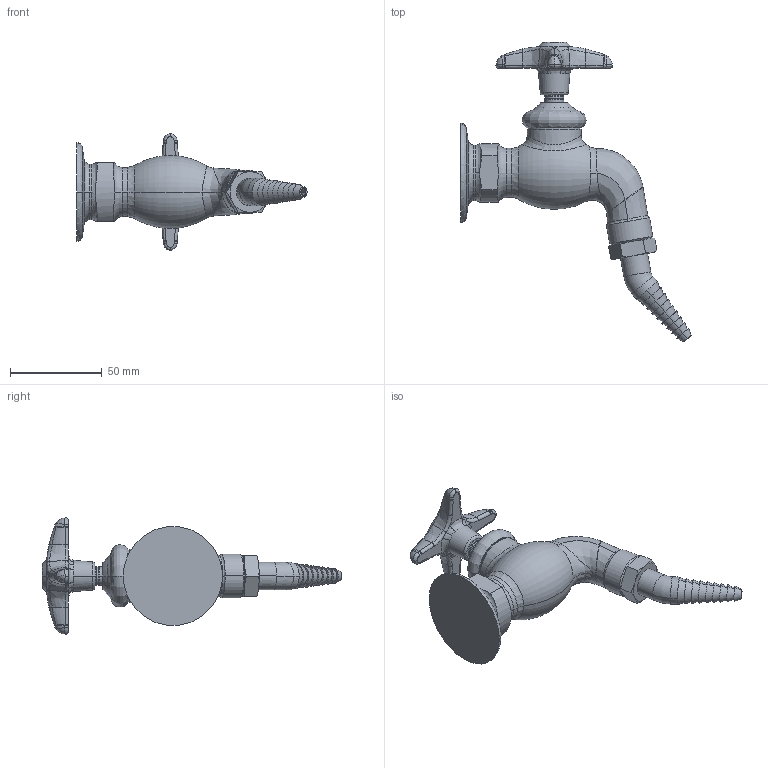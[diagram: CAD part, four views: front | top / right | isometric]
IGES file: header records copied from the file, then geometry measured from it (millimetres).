
Start section:  PTC IGES file: LWV3-C21.igs
Global section: file name: LWV3-C21.igs; native system: Creo Parametric by PTC Inc.; preprocessor: 2014500; author: usch_engrender; organization: Unknown; date: 20150910.122054; units: inch
Bounding box: 125.3 x 163.06 x 63.42 mm (x, y, z)
Volume: 117700.6 mm3; surface area: 30857.4 mm2
Topology: 1 solids, 4 shells, 374 faces, 853 edges, 505 vertices
Faces by surface type: bspline 219, revolution 155
